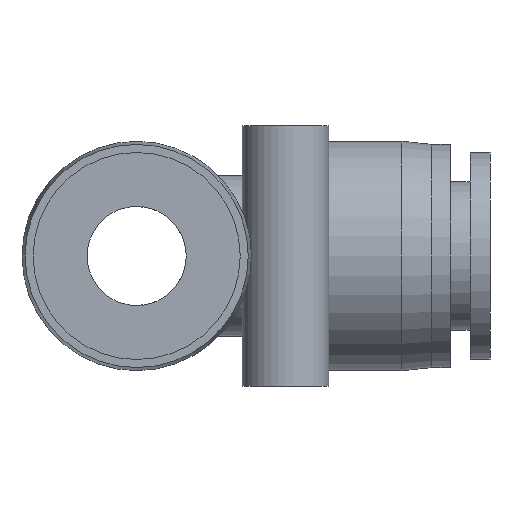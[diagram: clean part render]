
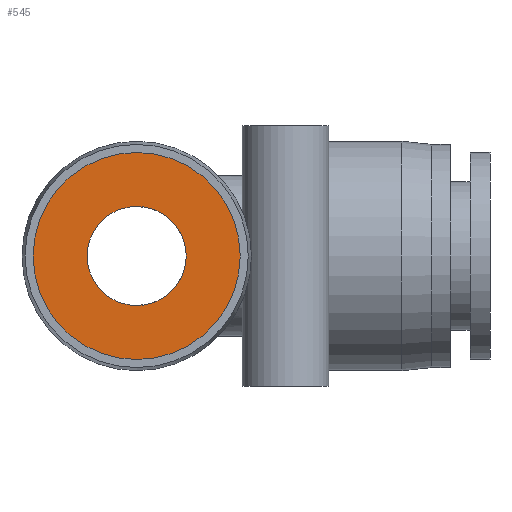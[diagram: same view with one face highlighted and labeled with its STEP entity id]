
A CAD part, left-side view. The second image highlights one B-rep face of the part: STEP entity #545.
In plain terms, the highlighted planar face has unit normal (-1, 0, 0).
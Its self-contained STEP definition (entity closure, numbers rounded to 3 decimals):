
#125=CARTESIAN_POINT('',(-28.5,-4.,0.));
#126=VERTEX_POINT('',#125);
#127=CARTESIAN_POINT('',(-28.5,0.0,0.0));
#128=DIRECTION('',(1.0,0.0,0.0));
#129=DIRECTION('',(0.0,1.0,0.0));
#130=AXIS2_PLACEMENT_3D('',#127,#128,#129);
#131=CIRCLE('',#130,4.);
#132=EDGE_CURVE('',#126,#126,#131,.T.);
#526=CARTESIAN_POINT('',(-28.5,4.175,0.0));
#527=DIRECTION('',(-1.0,0.0,0.0));
#528=DIRECTION('',(0.0,0.0,1.0));
#529=AXIS2_PLACEMENT_3D('',#526,#527,#528);
#530=PLANE('',#529);
#531=CARTESIAN_POINT('',(-28.5,8.35,0.0));
#532=VERTEX_POINT('',#531);
#533=CARTESIAN_POINT('',(-28.5,0.0,0.0));
#534=DIRECTION('',(1.0,0.0,0.0));
#535=DIRECTION('',(0.0,1.0,0.0));
#536=AXIS2_PLACEMENT_3D('',#533,#534,#535);
#537=CIRCLE('',#536,8.35);
#538=EDGE_CURVE('',#532,#532,#537,.T.);
#539=ORIENTED_EDGE('',*,*,#538,.F.);
#540=EDGE_LOOP('',(#539));
#541=FACE_OUTER_BOUND('',#540,.T.);
#542=ORIENTED_EDGE('',*,*,#132,.T.);
#543=EDGE_LOOP('',(#542));
#544=FACE_BOUND('',#543,.T.);
#545=ADVANCED_FACE('',(#541,#544),#530,.T.);
